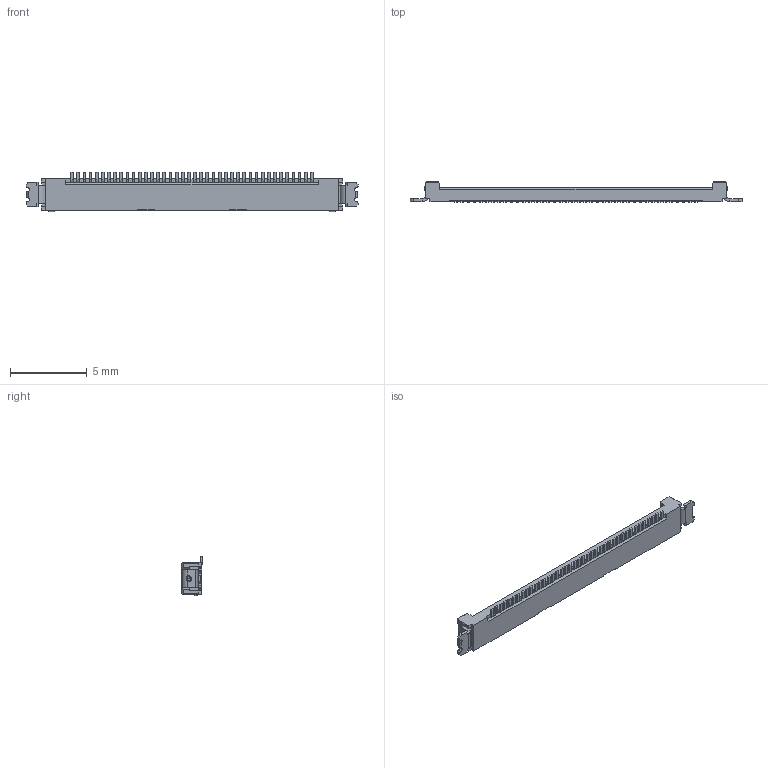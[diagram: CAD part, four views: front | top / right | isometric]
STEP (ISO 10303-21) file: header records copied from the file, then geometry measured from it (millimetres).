
FILE_DESCRIPTION (( 'STEP AP203' ), '1' );
FILE_NAME ('20374-040E-xxC RECE ASSY STEP R1 ALL.STEP', '2012-03-16T16:10:05', ( ' ' ), ( ' ' ), 'SwSTEP 2.0', 'SolidWorks 2011', '' );
FILE_SCHEMA (( 'CONFIG_CONTROL_DESIGN' ));
Length unit declared in the file: millimetre
Products named in the file (1): 20374-040E-xxC RECE ASSY STEP R1 ALL
Bounding box: 21.6 x 1.33 x 2.6 mm (x, y, z)
Volume: 29.2 mm3; surface area: 175.1 mm2
Topology: 1 solids, 1 shells, 1155 faces, 3210 edges, 2100 vertices
Faces by surface type: plane 757, cylinder 304, torus 84, sphere 8, bspline 2
Entity records: 37349 total; most frequent: CARTESIAN_POINT 6584, DIRECTION 6520, ORIENTED_EDGE 6420, EDGE_CURVE 3210, VECTOR 2192, LINE 2192, AXIS2_PLACEMENT_3D 2164, VERTEX_POINT 2100
